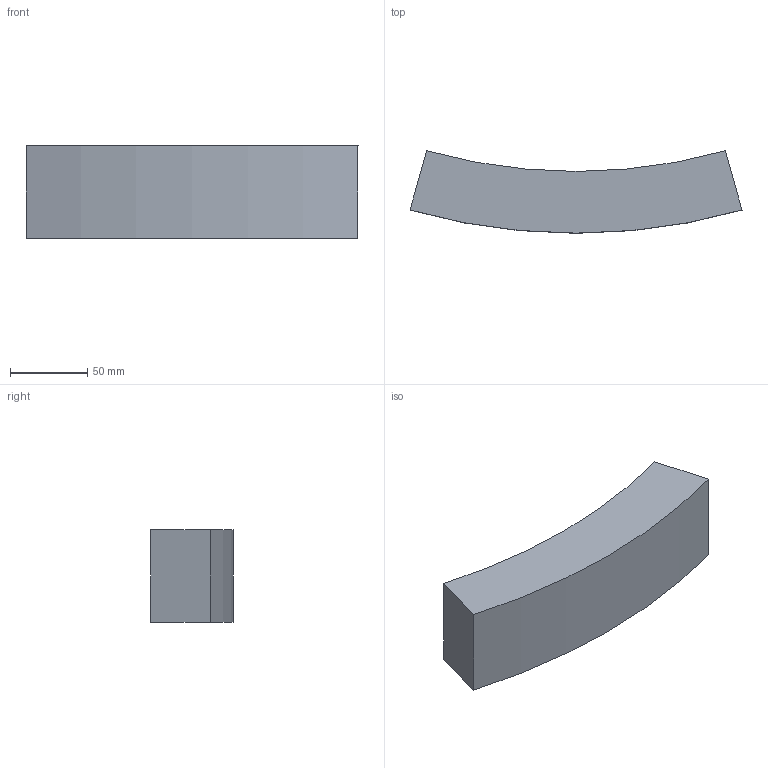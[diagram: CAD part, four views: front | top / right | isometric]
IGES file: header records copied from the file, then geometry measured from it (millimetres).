
Start section:  PTC IGES file: d160-1600_fixbloc_d355_pk-01.igs
Global section: file name: d160-1600_fixbloc_d355_pk-01.igs; native system: Creo Parametric by PTC Inc.; preprocessor: 2019030; author: demmerls; organization: Unknown; date: 20200925.145320; units: millimetre
Bounding box: 215.26 x 53.43 x 60 mm (x, y, z)
Surface area: 46195.8 mm2 (no closed solid volume)
Topology: 0 solids, 0 shells, 6 faces, 24 edges, 24 vertices
Faces by surface type: bspline 6
